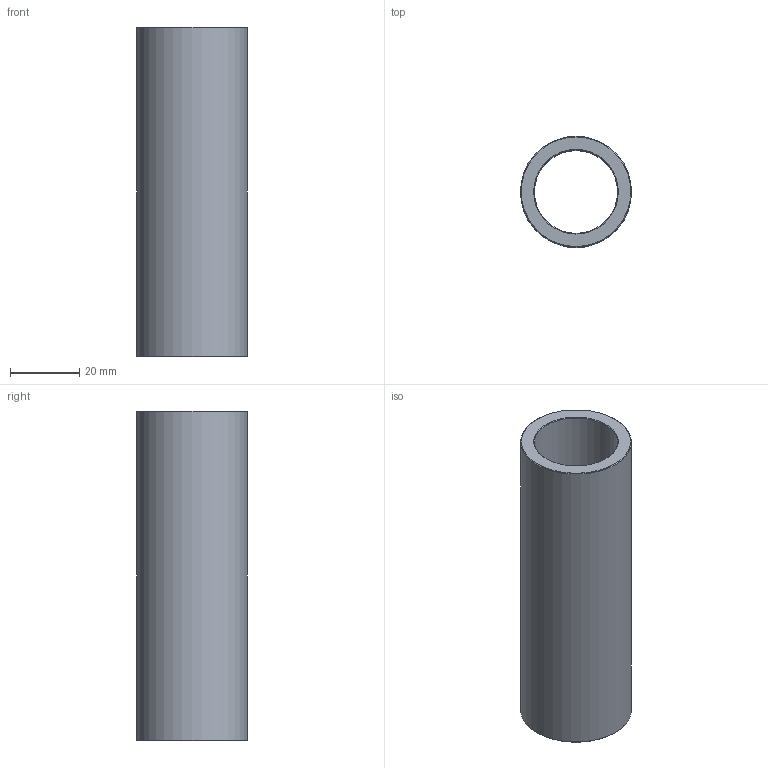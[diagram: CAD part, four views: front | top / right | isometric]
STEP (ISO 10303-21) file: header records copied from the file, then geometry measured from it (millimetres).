
FILE_DESCRIPTION(('STEP AP203'),'1');
FILE_NAME('C:/Users/Rodrigo/Desktop/GA4.024.095-1.step','2016-11-07T14:28:46',(' '),(' '),'Spatial InterOp 3D',' ',' ');
FILE_SCHEMA(('CONFIG_CONTROL_DESIGN'));
Length unit declared in the file: millimetre
Products named in the file (1): 1
Bounding box: 32 x 32 x 95 mm (x, y, z)
Volume: 33419.5 mm3; surface area: 17375.8 mm2
Topology: 1 solids, 1 shells, 8 faces, 14 edges, 8 vertices
Faces by surface type: cone 4, cylinder 2, plane 2
Full cylindrical faces by diameter (mm): 24 x1, 32 x1
Entity records: 212 total; most frequent: DIRECTION 34, CARTESIAN_POINT 25, AXIS2_PLACEMENT_3D 17, EDGE_LOOP 16, ORIENTED_EDGE 16, FACE_OUTER_BOUND 10, ADVANCED_FACE 8, EDGE_CURVE 8
